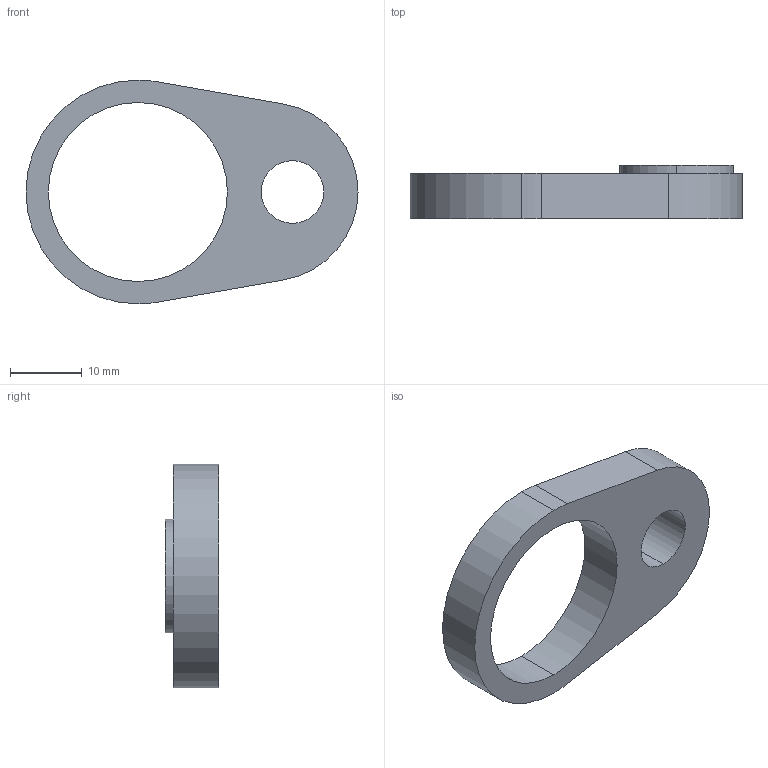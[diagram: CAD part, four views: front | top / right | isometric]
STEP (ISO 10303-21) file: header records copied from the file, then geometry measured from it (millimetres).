
FILE_DESCRIPTION (( 'STEP AP214' ), '1' );
FILE_NAME ('GasSpringClamp-B-25.stp', '2011-04-26T19:47:39', ( '' ), ( '' ), 'SwSTEP 2.0', 'SolidWorks 2010', '' );
FILE_SCHEMA (( 'AUTOMOTIVE_DESIGN' ));
Length unit declared in the file: inch
Products named in the file (1): GasSpringClamp-B-25
Bounding box: 46.35 x 7.49 x 31.24 mm (x, y, z)
Volume: 3946.9 mm3; surface area: 2750.5 mm2
Topology: 1 solids, 1 shells, 15 faces, 36 edges, 24 vertices
Faces by surface type: cylinder 10, plane 5
Entity records: 498 total; most frequent: DIRECTION 88, CARTESIAN_POINT 76, ORIENTED_EDGE 72, AXIS2_PLACEMENT_3D 36, EDGE_CURVE 36, VERTEX_POINT 24, CIRCLE 20, EDGE_LOOP 20
